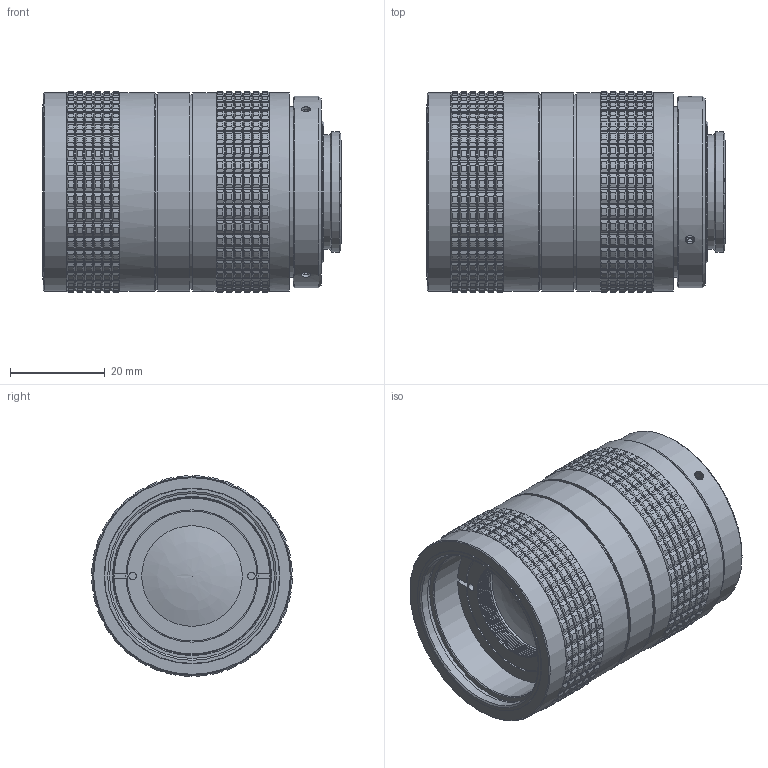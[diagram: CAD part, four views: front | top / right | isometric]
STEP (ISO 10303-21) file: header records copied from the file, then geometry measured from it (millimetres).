
FILE_DESCRIPTION(/* description */ (''),/* implementation_level */ '2;1');
FILE_NAME(/* name */ '0020-001-000-40_AP',/* time_stamp */ '2009-07-29T11:19:51+02:00',/* author */ (''),/* organization */ (''),/* preprocessor_version */ 'ST-DEVELOPER v9',/* originating_system */ 'UGS - NX 4.0',/* authorisation */ '');
FILE_SCHEMA (('AUTOMOTIVE_DESIGN { 1 0 10303 214 1 1 1 1 }'));
Products named in the file (1): pant4B41j2p6
Bounding box: 63.18 x 42.5 x 42.5 mm (x, y, z)
Volume: 71561.1 mm3; surface area: 19679.3 mm2
Topology: 4 solids, 11 shells, 3125 faces, 8202 edges, 5132 vertices
Faces by surface type: plane 1537, cone 1015, cylinder 556, torus 13, revolution 4
Full cylindrical faces by diameter (mm): 1.2 x3, 1.6 x2, 2.013 x3, 2.5 x3, 17.2 x1, 18 x1, 20 x1, 21.2 x2, 21.3 x1, 22.1 x1, 22.4 x1, 22.6 x1, 23 x1, 24.2 x1, 25.4 x1, 27.5 x1, 28 x1, 30 x1, 33 x1, 33.3 x1, 34.886 x1, 35 x1, 35.7 x1, 36 x2, 37 x1, 37.2 x1, 39.5 x1, 40.5 x1, 41.1 x3, 41.2 x1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
Entity records: 120457 total; most frequent: CARTESIAN_POINT 28935, ORIENTED_EDGE 16044, DIRECTION 12494, EDGE_CURVE 8022, AXIS2_PLACEMENT_3D 5218, VERTEX_POINT 5080, B_SPLINE_CURVE_WITH_KNOTS 3876, EDGE_LOOP 3294
